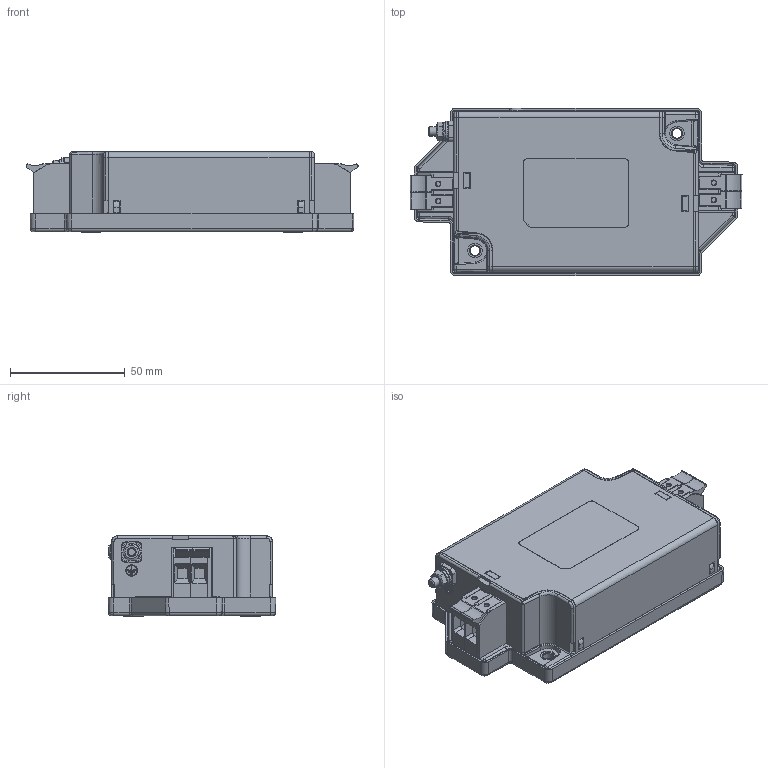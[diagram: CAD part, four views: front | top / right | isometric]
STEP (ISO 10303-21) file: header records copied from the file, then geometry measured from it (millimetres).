
FILE_DESCRIPTION(/* description */ (''),/* implementation_level */ '2;1');
FILE_NAME(/* name */ 'C:\Users\Christian.Ackermann\OneDrive - Schaffner EMV AG\Desktop\UMA_customerSTEP\FN250x-32-103.stp',/* time_stamp */ '2021-08-24T08:58:43+02:00',/* author */ ('Christian.Ackermann'),/* organization */ (''),/* preprocessor_version */ 'ST-DEVELOPER v18.1',/* originating_system */ 'Autodesk Inventor 2020',/* authorisation */ '');
FILE_SCHEMA (('AUTOMOTIVE_DESIGN { 1 0 10303 214 3 1 1 }'));
Products named in the file (1): FN250x-32-103
Bounding box: 144.61 x 73 x 35.16 mm (x, y, z)
Volume: 264005.6 mm3; surface area: 55381.3 mm2
Topology: 5 solids, 5 shells, 1512 faces, 3995 edges, 2530 vertices
Faces by surface type: plane 845, cylinder 450, bspline 146, cone 28, torus 23, sphere 20
Full cylindrical faces by diameter (mm): 0.8 x28, 2 x5, 2.2 x2, 4 x2, 4.2 x2, 4.3 x1, 6.4 x2, 6.5 x1, 8.39 x4, 8.74 x6, 9 x1
Entity records: 52204 total; most frequent: CARTESIAN_POINT 12916, ORIENTED_EDGE 7982, DIRECTION 7691, EDGE_CURVE 3991, LINE 2659, VECTOR 2659, VERTEX_POINT 2530, AXIS2_PLACEMENT_3D 2516
